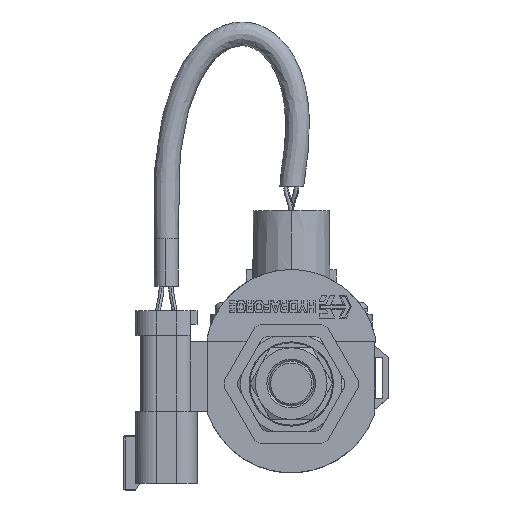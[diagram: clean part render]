
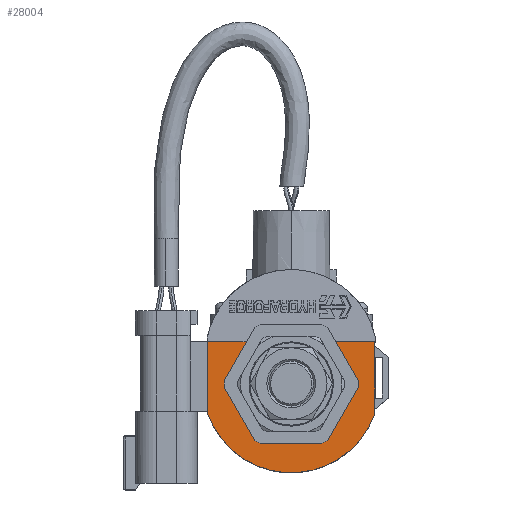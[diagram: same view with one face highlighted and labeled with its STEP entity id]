
A CAD part, top view. The second image highlights one B-rep face of the part: STEP entity #28004.
In plain terms, the highlighted planar face has unit normal (0, 0, 1).
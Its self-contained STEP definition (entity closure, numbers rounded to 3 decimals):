
#8318=CARTESIAN_POINT('',(0.,0.,24.384));
#8319=DIRECTION('',(0.,0.,1.));
#8320=DIRECTION('',(-0.803,0.596,0.));
#8321=AXIS2_PLACEMENT_3D('',#8318,#8319,#8320);
#8323=CARTESIAN_POINT('',(0.,0.,24.384));
#8324=DIRECTION('',(0.,0.,1.));
#8325=DIRECTION('',(-1.,0.,0.));
#8326=AXIS2_PLACEMENT_3D('',#8323,#8324,#8325);
#8328=CARTESIAN_POINT('',(0.,0.,24.384));
#8329=DIRECTION('',(0.,0.,1.));
#8330=DIRECTION('',(1.,0.,0.));
#8331=AXIS2_PLACEMENT_3D('',#8328,#8329,#8330);
#8333=DIRECTION('',(0.,1.,0.));
#8334=VECTOR('',#8333,2.921);
#8335=CARTESIAN_POINT('',(11.214,8.331,24.384));
#8336=LINE('',#8335,#8334);
#8337=DIRECTION('',(1.,0.,0.));
#8338=VECTOR('',#8337,11.062);
#8339=CARTESIAN_POINT('',(11.214,11.252,24.384));
#8340=LINE('',#8339,#8338);
#8341=DIRECTION('',(0.,-1.,0.));
#8342=VECTOR('',#8341,18.923);
#8343=CARTESIAN_POINT('',(22.276,11.252,24.384));
#8344=LINE('',#8343,#8342);
#8345=CARTESIAN_POINT('',(0.,0.,24.384));
#8346=DIRECTION('',(0.,0.,-1.));
#8347=DIRECTION('',(0.946,-0.326,0.));
#8348=AXIS2_PLACEMENT_3D('',#8345,#8346,#8347);
#8350=DIRECTION('',(0.,1.,0.));
#8351=VECTOR('',#8350,18.923);
#8352=CARTESIAN_POINT('',(-22.276,-7.671,24.384));
#8353=LINE('',#8352,#8351);
#8354=DIRECTION('',(1.,0.,0.));
#8355=VECTOR('',#8354,11.062);
#8356=CARTESIAN_POINT('',(-22.276,11.252,24.384));
#8357=LINE('',#8356,#8355);
#8358=DIRECTION('',(0.,-1.,0.));
#8359=VECTOR('',#8358,2.921);
#8360=CARTESIAN_POINT('',(-11.214,11.252,24.384));
#8361=LINE('',#8360,#8359);
#17547=CARTESIAN_POINT('',(-22.276,11.252,24.384));
#17548=VERTEX_POINT('',#17547);
#17549=CARTESIAN_POINT('',(-22.276,-7.671,24.384));
#17550=VERTEX_POINT('',#17549);
#17561=CARTESIAN_POINT('',(-11.214,8.331,24.384));
#17562=CARTESIAN_POINT('',(-13.97,0.,24.384));
#17563=VERTEX_POINT('',#17561);
#17564=VERTEX_POINT('',#17562);
#17565=CARTESIAN_POINT('',(13.97,0.,24.384));
#17566=VERTEX_POINT('',#17565);
#17567=CARTESIAN_POINT('',(11.214,8.331,24.384));
#17568=VERTEX_POINT('',#17567);
#17569=CARTESIAN_POINT('',(11.214,11.252,24.384));
#17570=VERTEX_POINT('',#17569);
#17571=CARTESIAN_POINT('',(22.276,11.252,24.384));
#17572=VERTEX_POINT('',#17571);
#17573=CARTESIAN_POINT('',(22.276,-7.671,24.384));
#17574=VERTEX_POINT('',#17573);
#17575=CARTESIAN_POINT('',(-11.214,11.252,24.384));
#17576=VERTEX_POINT('',#17575);
#27978=CARTESIAN_POINT('',(0.,11.252,24.384));
#27979=DIRECTION('',(0.,0.,1.));
#27980=DIRECTION('',(0.,1.,0.));
#27981=AXIS2_PLACEMENT_3D('',#27978,#27979,#27980);
#27982=PLANE('',#27981);
#27984=ORIENTED_EDGE('',*,*,#27983,.T.);
#27986=ORIENTED_EDGE('',*,*,#27985,.T.);
#27988=ORIENTED_EDGE('',*,*,#27987,.T.);
#27990=ORIENTED_EDGE('',*,*,#27989,.T.);
#27992=ORIENTED_EDGE('',*,*,#27991,.T.);
#27994=ORIENTED_EDGE('',*,*,#27993,.T.);
#27996=ORIENTED_EDGE('',*,*,#27995,.T.);
#27997=ORIENTED_EDGE('',*,*,#27959,.T.);
#27999=ORIENTED_EDGE('',*,*,#27998,.T.);
#28001=ORIENTED_EDGE('',*,*,#28000,.T.);
#28002=EDGE_LOOP('',(#27984,#27986,#27988,#27990,#27992,#27994,#27996,#27997,
#27999,#28001));
#28003=FACE_OUTER_BOUND('',#28002,.F.);
#28004=ADVANCED_FACE('',(#28003),#27982,.T.);
#8322=CIRCLE('',#8321,13.97);
#8327=CIRCLE('',#8326,13.97);
#8332=CIRCLE('',#8331,13.97);
#8349=CIRCLE('',#8348,23.56);
#27959=EDGE_CURVE('',#17550,#17548,#8353,.T.);
#27983=EDGE_CURVE('',#17563,#17564,#8322,.T.);
#27985=EDGE_CURVE('',#17564,#17566,#8327,.T.);
#27987=EDGE_CURVE('',#17566,#17568,#8332,.T.);
#27989=EDGE_CURVE('',#17568,#17570,#8336,.T.);
#27991=EDGE_CURVE('',#17570,#17572,#8340,.T.);
#27993=EDGE_CURVE('',#17572,#17574,#8344,.T.);
#27995=EDGE_CURVE('',#17574,#17550,#8349,.T.);
#27998=EDGE_CURVE('',#17548,#17576,#8357,.T.);
#28000=EDGE_CURVE('',#17576,#17563,#8361,.T.);
